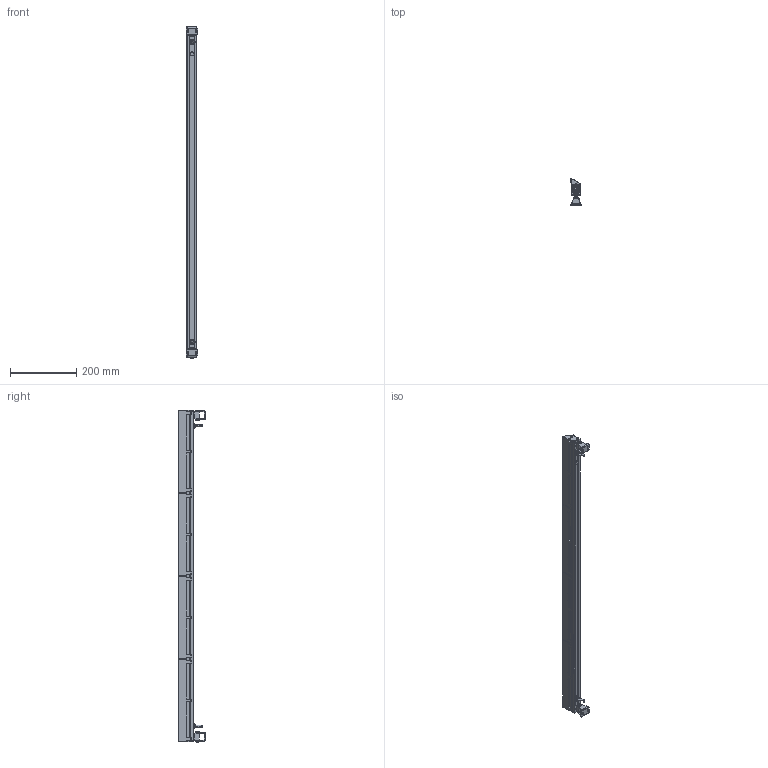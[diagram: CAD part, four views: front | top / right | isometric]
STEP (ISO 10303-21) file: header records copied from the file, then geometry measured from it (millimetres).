
FILE_DESCRIPTION((''),'2;1');
FILE_NAME('B6JD2456_ASM','2023-02-04T',('Administrator'),(''),'CREO PARAMETRIC BY PTC INC, 2015200','CREO PARAMETRIC BY PTC INC, 2015200','');
FILE_SCHEMA(('CONFIG_CONTROL_DESIGN'));
Length unit declared in the file: millimetre
Products named in the file (16): 6JB-24; 6JB-LJB; 6JB-D; 6J-DP; 6J_ZYG_81_20; 6J_A_3D_2018_6_27_; PG7_CU_23_2; PAIQIHUA_1_1_3_1_1; M2-5; M3X6-YT_2; SHANGZHIJIA-6J_2; XIAZHIJIA-6J-GAOYA-01_2; M6_BIAN_TOU_TE_ZHI_5_ANY_2; M3WUTOU_2; XINZHIJIA-6J-GAOYA-01_ASM_2_ASM; B6JD2456_ASM
Assembly tree (45 placements, depth 3):
  B6JD2456_ASM
    6JB-24
    6JB-LJB  x4
    6JB-D
    6J-DP  x2
    6J_ZYG_81_20  x2
    6J_A_3D_2018_6_27_  x4
    PG7_CU_23_2  x2
    PAIQIHUA_1_1_3_1_1
    M2-5  x8
    M3X6-YT_2  x12
    XINZHIJIA-6J-GAOYA-01_ASM_2_ASM  x2
      SHANGZHIJIA-6J_2
      XIAZHIJIA-6J-GAOYA-01_2
      M6_BIAN_TOU_TE_ZHI_5_ANY_2
      M3WUTOU_2
Bounding box: 34 x 80.3 x 1001.2 mm (x, y, z)
Volume: 445149.3 mm3; surface area: 410940.9 mm2
Topology: 49 solids, 49 shells, 3601 faces, 8934 edges, 5476 vertices
Faces by surface type: plane 1847, cylinder 956, cone 692, bspline 60, sphere 24, torus 16, revolution 4, extrusion 2
Entity records: 35899 total; most frequent: CARTESIAN_POINT 9471, ORIENTED_EDGE 5428, DIRECTION 5357, EDGE_CURVE 2714, VECTOR 1899, LINE 1898, VERTEX_POINT 1763, AXIS2_PLACEMENT_3D 1728
